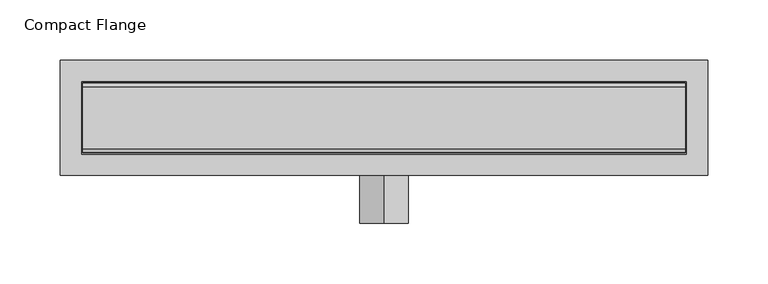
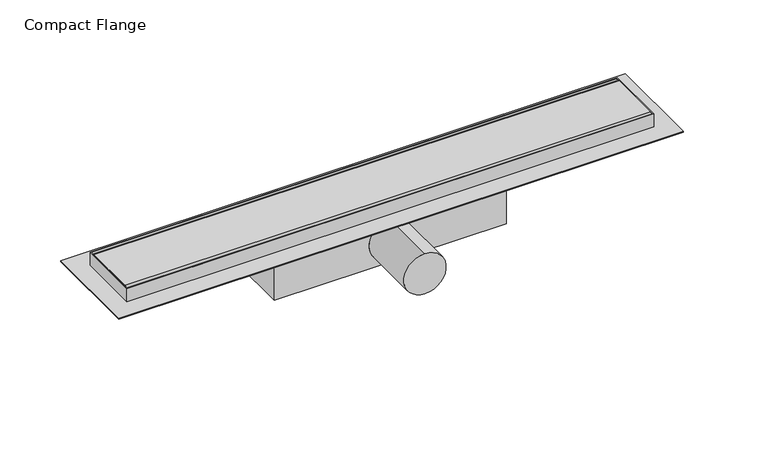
"""IFC4 building model written with IfcOpenShell, lengths in millimetres: sanitary terminal geometry, NLRS_PF_52_UN_Compact_Easydrain : Compact Flange."""

from ifc_helpers import new_model, si_unit, point, frame, frame_2d, origin, place, context, project, spatial, polyline, circle_curve, trimmed, segment, composite_curve, outline, extrude, source, transform, mapped, element, save
from ifc_brep_helpers import plane_surface, cylinder_surface, advanced_brep


def compact_flange_e84be961(model_context):
    return source(origin(), model_context, "Body", "SolidModel", [
        extrude(outline(composite_curve([segment(polyline([(-25.5, 0.0), (25.5, 0.0)]), True, "CONTINUOUS"), segment(trimmed(circle_curve(frame_2d((25.5, -3.0)), 3.0), [point((25.5, 0.0))], [point((28.5, -3.0))], False, "CARTESIAN"), True, "CONTINUOUS"), segment(polyline([(28.5, -3.0), (28.5, -12.0), (-28.5, -12.0), (-28.5, -3.0)]), True, "CONTINUOUS"), segment(trimmed(circle_curve(frame_2d((-25.5, -3.0)), 3.0), [point((-28.5, -3.0))], [point((-25.5, 0.0))], False, "CARTESIAN"), True, "CONTINUOUS")], self_intersect=False)), frame((-249.0, 0.0, 0.0), z_axis=(1.0, 0.0, 0.0), x_axis=(0.0, 1.0, 0.0)), (0.0, 0.0, 1.0), 498.0),
        extrude(outline(polyline([(267.5, 47.5), (267.5, -47.5), (-267.5, -47.5), (-267.5, 47.5), (267.5, 47.5)]), holes=[polyline([(250.0, 30.0), (-250.0, 30.0), (-250.0, -30.0), (250.0, -30.0), (250.0, 30.0)])]), frame((0.0, 0.0, -14.0), z_axis=(0.0, 0.0, 1.0), x_axis=(1.0, 0.0, 0.0)), (0.0, 0.0, 1.0), 1.0),
        advanced_brep(
        [(-250.0, -30.0, -18.0), (-110.0, -30.0, -20.0), (-110.0, -30.0, -61.0), (110.0, -30.0, -61.0), (110.0, -30.0, -20.0), (250.0, -30.0, -18.0), (250.0, -30.0, 0.0), (-250.0, -30.0, 0.0), (0.0, -30.0, -18.0), (0.0, -30.0, -58.0), (-250.0, 30.0, -18.0), (-250.0, 30.0, 0.0), (250.0, 30.0, 0.0), (250.0, 30.0, -18.0), (110.0, 30.0, -20.0), (110.0, 30.0, -61.0), (-110.0, 30.0, -61.0), (-110.0, 30.0, -20.0), (-249.0, 29.0, 0.0), (249.0, 29.0, 0.0), (249.0, -29.0, 0.0), (-249.0, -29.0, 0.0), (0.0, -87.0466767, -18.0), (0.0, -87.0466767, -58.0), (249.0, 29.0, -12.0), (-249.0, 29.0, -12.0), (-249.0, -29.0, -12.0), (249.0, -29.0, -12.0)],
        [
            (0, 1),
            (1, 2),
            (2, 3),
            (3, 4),
            (4, 5),
            (5, 6),
            (6, 7),
            (7, 0),
            (8, 9, circle_curve(frame((0.0, -30.0, -38.0), z_axis=(0.0, 1.0, 0.0), x_axis=(0.0, 0.0, -1.0)), 20.0)),
            (9, 8, circle_curve(frame((0.0, -30.0, -38.0), z_axis=(0.0, 1.0, 0.0), x_axis=(0.0, 0.0, -1.0)), 20.0)),
            (10, 11),
            (11, 12),
            (12, 13),
            (13, 14),
            (14, 15),
            (15, 16),
            (16, 17),
            (17, 10),
            (0, 10),
            (17, 1),
            (5, 13),
            (12, 6),
            (11, 7),
            (18, 19),
            (19, 20),
            (20, 21),
            (21, 18),
            (16, 2),
            (15, 3),
            (14, 4),
            (22, 23, circle_curve(frame((0.0, -87.0466767, -38.0), z_axis=(0.0, -1.0, 0.0), x_axis=(0.0, 0.0, -1.0)), 20.0)),
            (23, 22, circle_curve(frame((0.0, -87.0466767, -38.0), z_axis=(0.0, -1.0, 0.0), x_axis=(0.0, 0.0, -1.0)), 20.0)),
            (23, 9),
            (8, 22),
            (24, 25),
            (25, 26),
            (26, 27),
            (27, 24),
            (24, 19),
            (18, 25),
            (21, 26),
            (20, 27),
        ],
        [
            plane_surface(frame((-250.0, -30.0, -18.0), z_axis=(0.0, -1.0, 0.0), x_axis=(0.99989797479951, 0.0, -0.014284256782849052))),
            plane_surface(frame((-250.0, 30.0, -18.0), z_axis=(0.0, 1.0, 0.0), x_axis=(-0.99989797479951, 0.0, 0.014284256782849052))),
            plane_surface(frame((-250.0, -30.0, -18.0), z_axis=(-0.014284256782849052, 0.0, -0.99989797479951), x_axis=(0.0, 1.0, 0.0))),
            plane_surface(frame((250.0, -30.0, -18.0), z_axis=(1.0, 0.0, 0.0), x_axis=(0.0, 1.0, 0.0))),
            plane_surface(frame((250.0, -30.0, 0.0), z_axis=(0.0, 0.0, 1.0), x_axis=(0.0, 1.0, 0.0))),
            plane_surface(frame((-250.0, -30.0, 0.0), z_axis=(-1.0, 0.0, 0.0), x_axis=(0.0, 1.0, 0.0))),
            plane_surface(frame((-110.0, -30.0, -20.0), z_axis=(-1.0, 0.0, 0.0), x_axis=(0.0, 1.0, 0.0))),
            plane_surface(frame((-110.0, -30.0, -61.0), z_axis=(0.0, 0.0, -1.0), x_axis=(0.0, 1.0, 0.0))),
            plane_surface(frame((110.0, -30.0, -61.0), z_axis=(1.0, 0.0, 0.0), x_axis=(0.0, 1.0, 0.0))),
            plane_surface(frame((110.0, -30.0, -20.0), z_axis=(0.01428425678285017, 0.0, -0.99989797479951), x_axis=(0.0, 1.0, 0.0))),
            plane_surface(frame((0.0, -87.0466767, -38.0), z_axis=(0.0, -1.0, 0.0), x_axis=(1.0, 0.0, 0.0))),
            cylinder_surface(frame((0.0, 0.0, -38.0), z_axis=(0.0, 1.0, 0.0), x_axis=(0.0, 0.0, -1.0)), 20.0),
            plane_surface(frame((-249.0, 29.0, -12.0), z_axis=(0.0, 0.0, 1.0), x_axis=(1.0, 0.0, 0.0))),
            plane_surface(frame((249.0, 29.0, 0.0), z_axis=(0.0, -1.0, 0.0), x_axis=(0.0, 0.0, -1.0))),
            plane_surface(frame((-249.0, 29.0, 0.0), z_axis=(1.0, 0.0, 0.0), x_axis=(0.0, 0.0, -1.0))),
            plane_surface(frame((-249.0, -29.0, 0.0), z_axis=(0.0, 1.0, 0.0), x_axis=(0.0, 0.0, -1.0))),
            plane_surface(frame((249.0, -29.0, 0.0), z_axis=(-1.0, 0.0, 0.0), x_axis=(0.0, 0.0, -1.0))),
        ],
        [
            (0, [[1, 2, 3, 4, 5, 6, 7, 8], [9, 10]]),
            (1, [[11, 12, 13, 14, 15, 16, 17, 18]]),
            (2, [[-1, 19, -18, 20]]),
            (3, [[-6, 21, -13, 22]]),
            (4, [[-7, -22, -12, 23], [24, 25, 26, 27]]),
            (5, [[-8, -23, -11, -19]]),
            (6, [[-2, -20, -17, 28]]),
            (7, [[-3, -28, -16, 29]]),
            (8, [[-4, -29, -15, 30]]),
            (9, [[-5, -30, -14, -21]]),
            (10, [[31, 32]]),
            (11, [[-32, 33, -9, 34]]),
            (11, [[-31, -34, -10, -33]]),
            (12, [[35, 36, 37, 38]]),
            (13, [[-35, 39, -24, 40]]),
            (14, [[-36, -40, -27, 41]]),
            (15, [[-37, -41, -26, 42]]),
            (16, [[-38, -42, -25, -39]]),
        ],
    ),
    ])


if __name__ == "__main__":
    model = new_model("IFC4")
    model_context = context("Model", 3, world=origin())
    ifc_project = project(units=[si_unit("LENGTHUNIT", "METRE", prefix="MILLI")], contexts=[model_context])
    site = spatial("IfcSite", under=ifc_project)
    building = spatial("IfcBuilding", under=site)
    placement = place(None, origin())
    compact_flange_shape = compact_flange_e84be961(model_context)
    element("IfcSanitaryTerminal", 1, ObjectType="NLRS_PF_52_UN_Compact_Easydrain : Compact Flange", at=placement, inside=building, context=model_context, shape_type="MappedRepresentation", body=[
        mapped(compact_flange_shape, transform((0.0, 0.0, 0.0), x_axis=(1.0, 0.0, 0.0), y_axis=(0.0, 1.0, 0.0), z_axis=(0.0, 0.0, 1.0))),
    ])
    save(model, "model.ifc")
